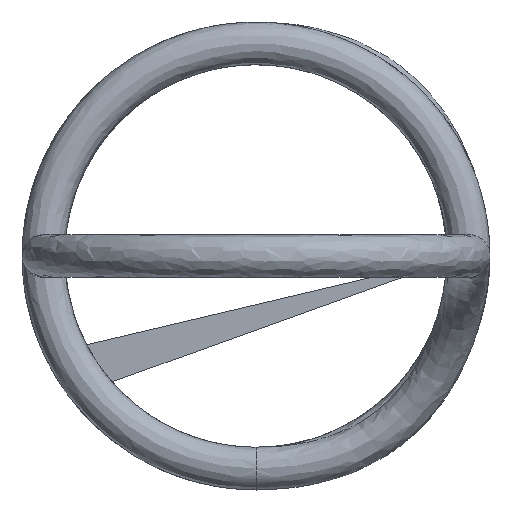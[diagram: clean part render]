
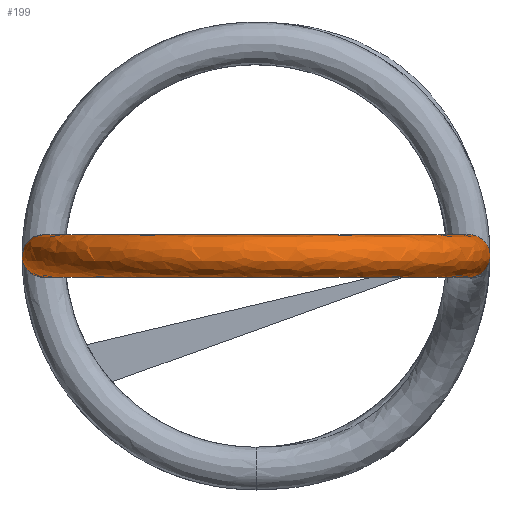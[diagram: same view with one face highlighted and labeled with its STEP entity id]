
A CAD part, front view. The second image highlights one B-rep face of the part: STEP entity #199.
In plain terms, the highlighted free-form (B-spline) face has degree [2, 2] with [9, 7] control points.
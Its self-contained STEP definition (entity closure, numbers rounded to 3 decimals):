
#15=(
BOUNDED_SURFACE()
B_SPLINE_SURFACE(2,2,((#595,#596,#597,#598,#599,#600,#601),(#602,#603,#604,
#605,#606,#607,#608),(#609,#610,#611,#612,#613,#614,#615),(#616,#617,#618,
#619,#620,#621,#622),(#623,#624,#625,#626,#627,#628,#629),(#630,#631,#632,
#633,#634,#635,#636),(#637,#638,#639,#640,#641,#642,#643),(#644,#645,#646,
#647,#648,#649,#650),(#651,#652,#653,#654,#655,#656,#657)),
 .UNSPECIFIED.,.T.,.F.,.F.)
B_SPLINE_SURFACE_WITH_KNOTS((3,2,2,2,3),(3,2,2,3),(0.,1.571,3.142,
4.712,6.283),(0.,1.081,2.162,
3.243),.UNSPECIFIED.)
GEOMETRIC_REPRESENTATION_ITEM()
RATIONAL_B_SPLINE_SURFACE(((1.,0.857,1.,0.857,1.,
0.857,1.),(0.707,0.606,0.707,
0.606,0.707,0.606,0.707),
(1.,0.857,1.,0.857,1.,0.857,1.),(0.707,
0.606,0.707,0.606,0.707,
0.606,0.707),(1.,0.857,1.,0.857,
1.,0.857,1.),(0.707,0.606,0.707,
0.606,0.707,0.606,0.707),
(1.,0.857,1.,0.857,1.,0.857,1.),(0.707,
0.606,0.707,0.606,0.707,
0.606,0.707),(1.,0.857,1.,0.857,
1.,0.857,1.)))
REPRESENTATION_ITEM('')
SURFACE()
);
#22=CIRCLE('',#234,0.55);
#23=CIRCLE('',#235,5.205);
#24=CIRCLE('',#236,0.55);
#37=FACE_OUTER_BOUND('',#48,.T.);
#48=EDGE_LOOP('',(#142,#143,#144,#145));
#85=VERTEX_POINT('',#520);
#88=VERTEX_POINT('',#658);
#106=EDGE_CURVE('',#85,#85,#22,.T.);
#109=EDGE_CURVE('',#85,#88,#23,.T.);
#110=EDGE_CURVE('',#88,#88,#24,.T.);
#142=ORIENTED_EDGE('',*,*,#106,.T.);
#143=ORIENTED_EDGE('',*,*,#109,.T.);
#144=ORIENTED_EDGE('',*,*,#110,.F.);
#145=ORIENTED_EDGE('',*,*,#109,.F.);
#199=ADVANCED_FACE('',(#37),#15,.T.);
#234=AXIS2_PLACEMENT_3D('',#531,#256,#257);
#235=AXIS2_PLACEMENT_3D('',#659,#258,#259);
#236=AXIS2_PLACEMENT_3D('',#660,#260,#261);
#256=DIRECTION('center_axis',(0.,-1.,0.));
#257=DIRECTION('ref_axis',(-0.445,0.,-0.896));
#258=DIRECTION('center_axis',(0.,0.,
-1.));
#259=DIRECTION('ref_axis',(1.,0.,0.));
#260=DIRECTION('center_axis',(0.101,0.995,0.));
#261=DIRECTION('ref_axis',(0.442,-0.045,-0.896));
#520=CARTESIAN_POINT('',(5.205,-12.55,-0.493));
#531=CARTESIAN_POINT('Origin',(5.45,-12.55,0.));
#595=CARTESIAN_POINT('Ctrl Pts',(5.205,-12.55,-0.493));
#596=CARTESIAN_POINT('Ctrl Pts',(5.205,-15.673,-0.493));
#597=CARTESIAN_POINT('Ctrl Pts',(2.45,-17.143,-0.493));
#598=CARTESIAN_POINT('Ctrl Pts',(-0.306,-18.613,-0.493));
#599=CARTESIAN_POINT('Ctrl Pts',(-2.9,-16.873,-0.493));
#600=CARTESIAN_POINT('Ctrl Pts',(-5.494,-15.133,-0.493));
#601=CARTESIAN_POINT('Ctrl Pts',(-5.179,-12.025,-0.493));
#602=CARTESIAN_POINT('Ctrl Pts',(5.698,-12.55,-0.737));
#603=CARTESIAN_POINT('Ctrl Pts',(5.698,-15.969,-0.737));
#604=CARTESIAN_POINT('Ctrl Pts',(2.681,-17.578,-0.737));
#605=CARTESIAN_POINT('Ctrl Pts',(-0.335,-19.187,-0.737));
#606=CARTESIAN_POINT('Ctrl Pts',(-3.175,-17.282,-0.737));
#607=CARTESIAN_POINT('Ctrl Pts',(-6.014,-15.377,-0.737));
#608=CARTESIAN_POINT('Ctrl Pts',(-5.669,-11.976,-0.737));
#609=CARTESIAN_POINT('Ctrl Pts',(5.943,-12.55,-0.245));
#610=CARTESIAN_POINT('Ctrl Pts',(5.943,-16.116,-0.245));
#611=CARTESIAN_POINT('Ctrl Pts',(2.796,-17.794,-0.245));
#612=CARTESIAN_POINT('Ctrl Pts',(-0.35,-19.471,-0.245));
#613=CARTESIAN_POINT('Ctrl Pts',(-3.311,-17.485,-0.245));
#614=CARTESIAN_POINT('Ctrl Pts',(-6.272,-15.499,-0.245));
#615=CARTESIAN_POINT('Ctrl Pts',(-5.912,-11.951,-0.245));
#616=CARTESIAN_POINT('Ctrl Pts',(6.187,-12.55,0.248));
#617=CARTESIAN_POINT('Ctrl Pts',(6.187,-16.262,0.248));
#618=CARTESIAN_POINT('Ctrl Pts',(2.912,-18.009,0.248));
#619=CARTESIAN_POINT('Ctrl Pts',(-0.364,-19.756,0.248));
#620=CARTESIAN_POINT('Ctrl Pts',(-3.447,-17.688,0.248));
#621=CARTESIAN_POINT('Ctrl Pts',(-6.53,-15.62,0.248));
#622=CARTESIAN_POINT('Ctrl Pts',(-6.156,-11.926,0.248));
#623=CARTESIAN_POINT('Ctrl Pts',(5.695,-12.55,0.493));
#624=CARTESIAN_POINT('Ctrl Pts',(5.695,-15.967,0.493));
#625=CARTESIAN_POINT('Ctrl Pts',(2.68,-17.575,0.493));
#626=CARTESIAN_POINT('Ctrl Pts',(-0.335,-19.182,0.493));
#627=CARTESIAN_POINT('Ctrl Pts',(-3.172,-17.279,0.493));
#628=CARTESIAN_POINT('Ctrl Pts',(-6.01,-15.375,0.493));
#629=CARTESIAN_POINT('Ctrl Pts',(-5.666,-11.976,0.493));
#630=CARTESIAN_POINT('Ctrl Pts',(5.202,-12.55,0.737));
#631=CARTESIAN_POINT('Ctrl Pts',(5.202,-15.671,0.737));
#632=CARTESIAN_POINT('Ctrl Pts',(2.448,-17.14,0.737));
#633=CARTESIAN_POINT('Ctrl Pts',(-0.306,-18.609,0.737));
#634=CARTESIAN_POINT('Ctrl Pts',(-2.898,-16.87,0.737));
#635=CARTESIAN_POINT('Ctrl Pts',(-5.49,-15.131,0.737));
#636=CARTESIAN_POINT('Ctrl Pts',(-5.175,-12.026,0.737));
#637=CARTESIAN_POINT('Ctrl Pts',(4.957,-12.55,0.245));
#638=CARTESIAN_POINT('Ctrl Pts',(4.957,-15.524,0.245));
#639=CARTESIAN_POINT('Ctrl Pts',(2.333,-16.924,0.245));
#640=CARTESIAN_POINT('Ctrl Pts',(-0.292,-18.324,0.245));
#641=CARTESIAN_POINT('Ctrl Pts',(-2.762,-16.667,0.245));
#642=CARTESIAN_POINT('Ctrl Pts',(-5.232,-15.01,0.245));
#643=CARTESIAN_POINT('Ctrl Pts',(-4.932,-12.05,0.245));
#644=CARTESIAN_POINT('Ctrl Pts',(4.713,-12.55,-0.248));
#645=CARTESIAN_POINT('Ctrl Pts',(4.713,-15.378,-0.248));
#646=CARTESIAN_POINT('Ctrl Pts',(2.218,-16.708,-0.248));
#647=CARTESIAN_POINT('Ctrl Pts',(-0.277,-18.039,-0.248));
#648=CARTESIAN_POINT('Ctrl Pts',(-2.626,-16.464,-0.248));
#649=CARTESIAN_POINT('Ctrl Pts',(-4.974,-14.888,-0.248));
#650=CARTESIAN_POINT('Ctrl Pts',(-4.689,-12.075,-0.248));
#651=CARTESIAN_POINT('Ctrl Pts',(5.205,-12.55,-0.493));
#652=CARTESIAN_POINT('Ctrl Pts',(5.205,-15.673,-0.493));
#653=CARTESIAN_POINT('Ctrl Pts',(2.45,-17.143,-0.493));
#654=CARTESIAN_POINT('Ctrl Pts',(-0.306,-18.613,-0.493));
#655=CARTESIAN_POINT('Ctrl Pts',(-2.9,-16.873,-0.493));
#656=CARTESIAN_POINT('Ctrl Pts',(-5.494,-15.133,-0.493));
#657=CARTESIAN_POINT('Ctrl Pts',(-5.179,-12.025,-0.493));
#658=CARTESIAN_POINT('',(-5.179,-12.025,-0.493));
#659=CARTESIAN_POINT('Origin',(0.,-12.55,-0.493));
#660=CARTESIAN_POINT('Origin',(-5.422,-12.001,0.));
